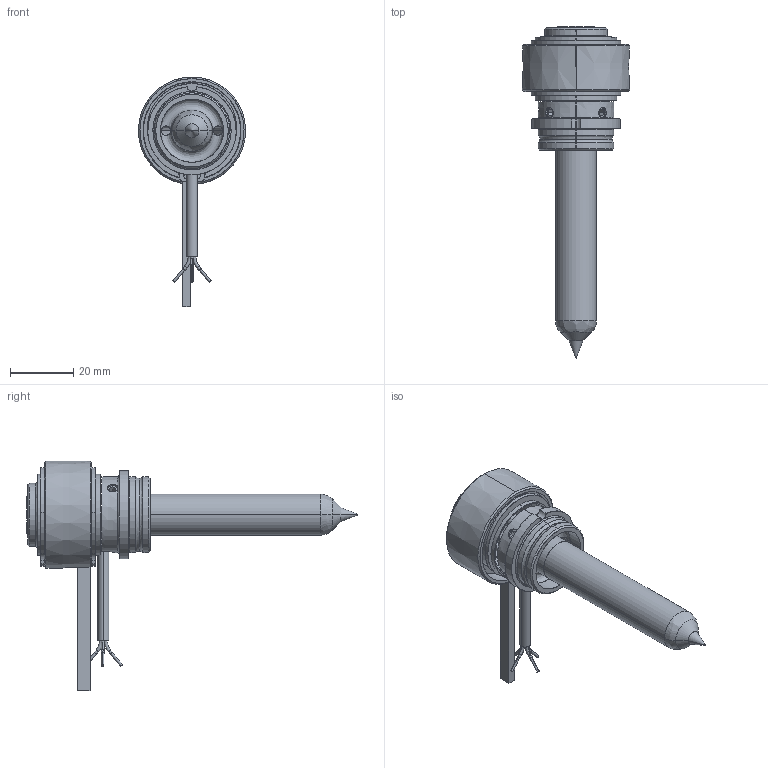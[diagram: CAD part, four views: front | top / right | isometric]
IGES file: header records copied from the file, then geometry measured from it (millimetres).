
Start section: SolidWorks IGES file using analytic representation for surfaces
Global section: file name: C:\Documents and Settings\ws-20\Desktop\TEM\UGGS2540-M-1 [Øf-0.25].IGS; native system: SolidWorks 2012; preprocessor: SolidWorks 2012; author: ws-20; date: 120516.093337; units: millimetre
Bounding box: 34 x 105.3 x 72.9 mm (x, y, z)
Surface area: 16179.5 mm2 (no closed solid volume)
Topology: 0 solids, 0 shells, 208 faces, 2895 edges, 2889 vertices
Faces by surface type: revolution 125, bspline 83
